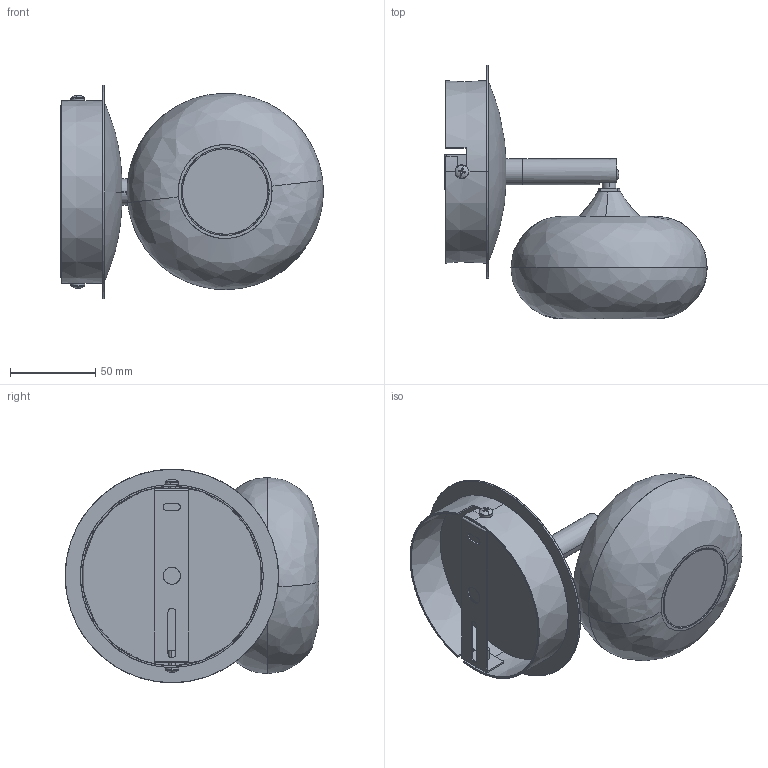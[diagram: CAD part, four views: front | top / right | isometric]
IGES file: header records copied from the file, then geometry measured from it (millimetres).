
Start section: SolidWorks IGES file using analytic representation for surfaces
Global section: file name: E:\3D lampy\Lipari\Lipari_6241.IGS; native system: SolidWorks 2016; preprocessor: SolidWorks 2016; author: Asia; date: 171004.115324; units: millimetre
Bounding box: 153.75 x 148.61 x 125 mm (x, y, z)
Surface area: 126502.3 mm2 (no closed solid volume)
Topology: 0 solids, 0 shells, 311 faces, 5917 edges, 5900 vertices
Faces by surface type: bspline 169, revolution 142
